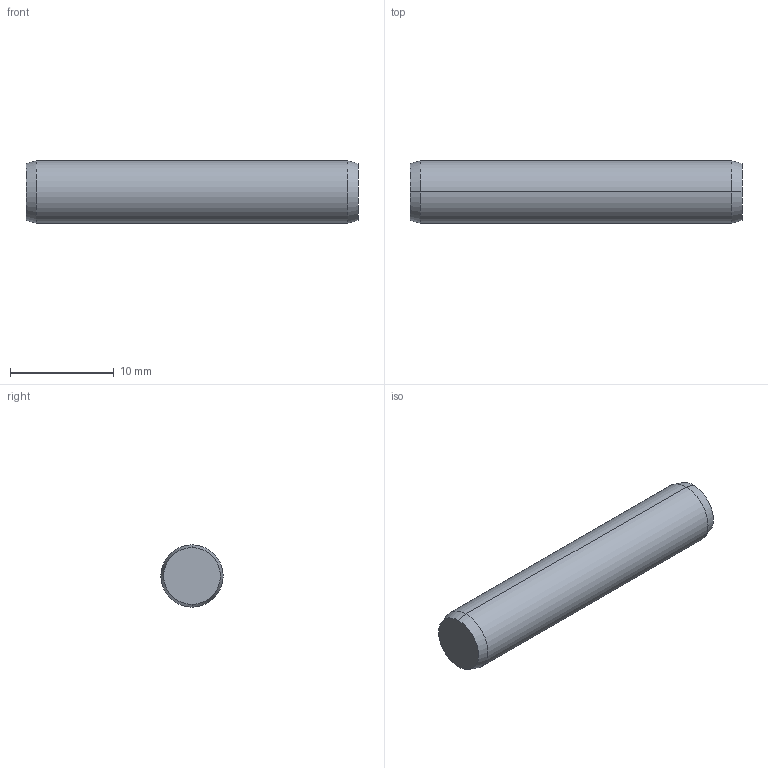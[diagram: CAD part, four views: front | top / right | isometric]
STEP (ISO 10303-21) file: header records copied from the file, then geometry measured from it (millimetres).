
FILE_DESCRIPTION (( 'STEP AP203' ), '1' );
FILE_NAME ('P1206.060-032.step', '2017-06-14T08:21:51', ( 'User' ), ( '' ), 'SwSTEP 2.0', 'SolidWorks 2009', '' );
FILE_SCHEMA (( 'CONFIG_CONTROL_DESIGN' ));
Length unit declared in the file: millimetre
Products named in the file (1): P1206.060-032
Bounding box: 32 x 6 x 6 mm (x, y, z)
Volume: 899.9 mm3; surface area: 649.7 mm2
Topology: 1 solids, 1 shells, 8 faces, 14 edges, 8 vertices
Faces by surface type: cone 4, cylinder 2, plane 2
Entity records: 271 total; most frequent: DIRECTION 40, CARTESIAN_POINT 31, ORIENTED_EDGE 28, AXIS2_PLACEMENT_3D 17, EDGE_CURVE 14, CIRCLE 8, FACE_OUTER_BOUND 8, ADVANCED_FACE 8
